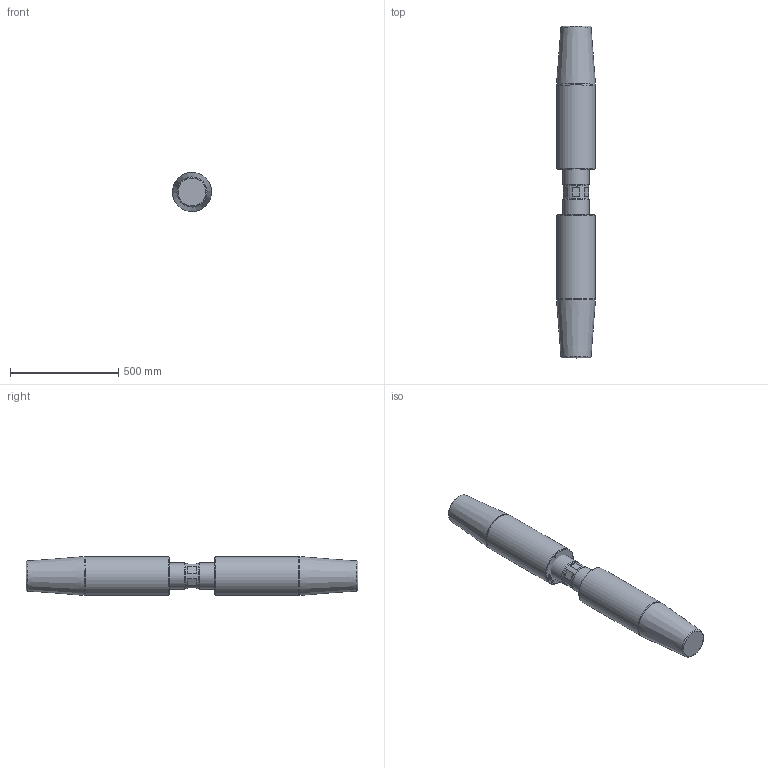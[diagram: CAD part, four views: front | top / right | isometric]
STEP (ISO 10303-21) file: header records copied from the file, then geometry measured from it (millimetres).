
FILE_DESCRIPTION(/* description */ (''),/* implementation_level */ '2;1');
FILE_NAME(/* name */ 'D:\Clienti\Redaelli (inventor)\CYA\STEP\Arrangement\CYA060 52 061 2.stp',/* time_stamp */ '2021-05-09T10:18:02+02:00',/* author */ ('fabri'),/* organization */ (''),/* preprocessor_version */ 'ST-DEVELOPER v16.13',/* originating_system */ 'Autodesk Inventor 2018',/* authorisation */ '');
FILE_SCHEMA (('AUTOMOTIVE_DESIGN { 1 0 10303 214 3 1 1 }'));
Length unit declared in the file: millimetre
Products named in the file (4): CYA012-54-062-0; TBF012-12-012-1; TBF012-13-012-0; TBF012-13-012-0_1
Assembly tree (3 placements, depth 2):
  CYA012-54-062-0
    TBF012-12-012-1
    TBF012-13-012-0
    TBF012-13-012-0_1
Bounding box: 179.88 x 1532 x 179.88 mm (x, y, z)
Volume: 38590140.7 mm3; surface area: 1083320.7 mm2
Topology: 3 solids, 3 shells, 502 faces, 1335 edges, 888 vertices
Faces by surface type: bspline 285, plane 174, cylinder 25, cone 14, torus 4
Full cylindrical faces by diameter (mm): 8.376 x8, 116 x1, 120 x2, 180 x2
Entity records: 17305 total; most frequent: CARTESIAN_POINT 6828, ORIENTED_EDGE 2592, EDGE_CURVE 1296, DIRECTION 1192, VERTEX_POINT 880, LINE 664, VECTOR 664, B_SPLINE_CURVE_WITH_KNOTS 590
